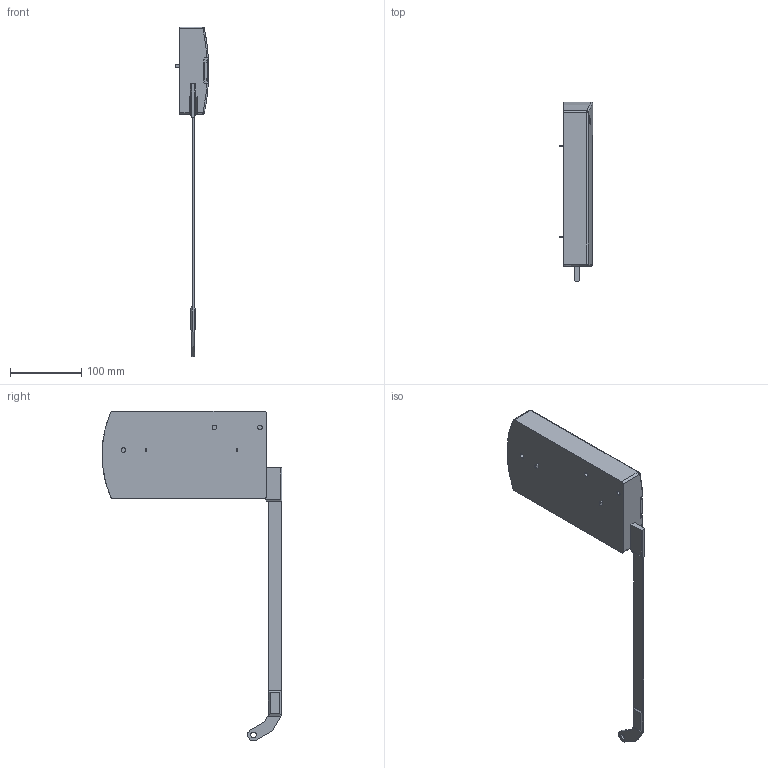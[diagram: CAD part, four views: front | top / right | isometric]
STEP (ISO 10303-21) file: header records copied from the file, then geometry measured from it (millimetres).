
FILE_DESCRIPTION (( 'STEP AP203' ), '1' );
FILE_NAME ('Kinvaro_F-20_Typ7_links_D2876035125~a.step', '2012-05-04T06:28:17', ( 'admin' ), ( 'Hewlett-Packard Company' ), 'SwSTEP 2.0', 'SolidWorks 2011', '' );
FILE_SCHEMA (( 'CONFIG_CONTROL_DESIGN' ));
Length unit declared in the file: millimetre
Products named in the file (1): Kinvaro_F-20_Typ7_links_D2876035125~a
Bounding box: 46.99 x 252.91 x 463.5 mm (x, y, z)
Volume: 1094394.1 mm3; surface area: 100212.8 mm2
Topology: 1 solids, 1 shells, 410 faces, 1130 edges, 741 vertices
Faces by surface type: cylinder 180, plane 172, bspline 46, torus 8, sphere 4
Entity records: 14396 total; most frequent: CARTESIAN_POINT 3991, ORIENTED_EDGE 2254, DIRECTION 2058, EDGE_CURVE 1127, VERTEX_POINT 741, AXIS2_PLACEMENT_3D 724, VECTOR 610, LINE 610
